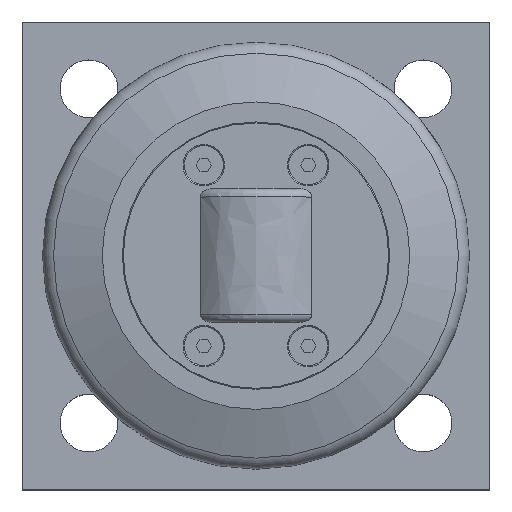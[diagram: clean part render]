
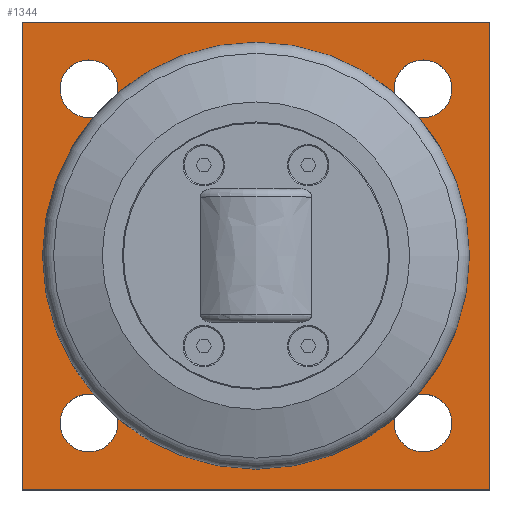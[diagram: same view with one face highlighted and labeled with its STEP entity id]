
A CAD part, top view. The second image highlights one B-rep face of the part: STEP entity #1344.
In plain terms, the highlighted planar face has unit normal (0, 0, 1).
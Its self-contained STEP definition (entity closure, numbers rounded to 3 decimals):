
#60=FACE_BOUND('',#289,.T.);
#61=FACE_BOUND('',#290,.T.);
#62=FACE_BOUND('',#291,.T.);
#63=FACE_BOUND('',#292,.T.);
#64=FACE_BOUND('',#293,.T.);
#127=CIRCLE('',#1493,39.5);
#128=CIRCLE('',#1495,8.647);
#129=CIRCLE('',#1496,8.647);
#130=CIRCLE('',#1497,8.647);
#131=CIRCLE('',#1498,8.647);
#132=CIRCLE('',#1499,8.647);
#133=CIRCLE('',#1500,8.647);
#134=CIRCLE('',#1501,8.647);
#135=CIRCLE('',#1502,8.647);
#203=FACE_OUTER_BOUND('',#288,.T.);
#288=EDGE_LOOP('',(#1178,#1179,#1180,#1181));
#289=EDGE_LOOP('',(#1182));
#290=EDGE_LOOP('',(#1183,#1184));
#291=EDGE_LOOP('',(#1185,#1186));
#292=EDGE_LOOP('',(#1187,#1188));
#293=EDGE_LOOP('',(#1189,#1190));
#404=LINE('',#2342,#517);
#405=LINE('',#2344,#518);
#406=LINE('',#2346,#519);
#407=LINE('',#2347,#520);
#517=VECTOR('',#1857,10.);
#518=VECTOR('',#1858,10.);
#519=VECTOR('',#1859,10.);
#520=VECTOR('',#1860,10.);
#644=VERTEX_POINT('',#2336);
#645=VERTEX_POINT('',#2340);
#646=VERTEX_POINT('',#2341);
#647=VERTEX_POINT('',#2343);
#648=VERTEX_POINT('',#2345);
#649=VERTEX_POINT('',#2348);
#650=VERTEX_POINT('',#2349);
#651=VERTEX_POINT('',#2352);
#652=VERTEX_POINT('',#2353);
#653=VERTEX_POINT('',#2356);
#654=VERTEX_POINT('',#2357);
#655=VERTEX_POINT('',#2360);
#656=VERTEX_POINT('',#2361);
#826=EDGE_CURVE('',#644,#644,#127,.T.);
#827=EDGE_CURVE('',#645,#646,#404,.T.);
#828=EDGE_CURVE('',#647,#645,#405,.T.);
#829=EDGE_CURVE('',#648,#647,#406,.T.);
#830=EDGE_CURVE('',#646,#648,#407,.T.);
#831=EDGE_CURVE('',#649,#650,#128,.T.);
#832=EDGE_CURVE('',#650,#649,#129,.T.);
#833=EDGE_CURVE('',#651,#652,#130,.T.);
#834=EDGE_CURVE('',#652,#651,#131,.T.);
#835=EDGE_CURVE('',#653,#654,#132,.T.);
#836=EDGE_CURVE('',#654,#653,#133,.T.);
#837=EDGE_CURVE('',#655,#656,#134,.T.);
#838=EDGE_CURVE('',#656,#655,#135,.T.);
#1178=ORIENTED_EDGE('',*,*,#827,.F.);
#1179=ORIENTED_EDGE('',*,*,#828,.F.);
#1180=ORIENTED_EDGE('',*,*,#829,.F.);
#1181=ORIENTED_EDGE('',*,*,#830,.F.);
#1182=ORIENTED_EDGE('',*,*,#826,.T.);
#1183=ORIENTED_EDGE('',*,*,#831,.T.);
#1184=ORIENTED_EDGE('',*,*,#832,.T.);
#1185=ORIENTED_EDGE('',*,*,#833,.T.);
#1186=ORIENTED_EDGE('',*,*,#834,.T.);
#1187=ORIENTED_EDGE('',*,*,#835,.T.);
#1188=ORIENTED_EDGE('',*,*,#836,.T.);
#1189=ORIENTED_EDGE('',*,*,#837,.T.);
#1190=ORIENTED_EDGE('',*,*,#838,.T.);
#1275=PLANE('',#1494);
#1344=ADVANCED_FACE('',(#203,#60,#61,#62,#63,#64),#1275,.T.);
#1493=AXIS2_PLACEMENT_3D('',#2338,#1853,#1854);
#1494=AXIS2_PLACEMENT_3D('',#2339,#1855,#1856);
#1495=AXIS2_PLACEMENT_3D('',#2350,#1861,#1862);
#1496=AXIS2_PLACEMENT_3D('',#2351,#1863,#1864);
#1497=AXIS2_PLACEMENT_3D('',#2354,#1865,#1866);
#1498=AXIS2_PLACEMENT_3D('',#2355,#1867,#1868);
#1499=AXIS2_PLACEMENT_3D('',#2358,#1869,#1870);
#1500=AXIS2_PLACEMENT_3D('',#2359,#1871,#1872);
#1501=AXIS2_PLACEMENT_3D('',#2362,#1873,#1874);
#1502=AXIS2_PLACEMENT_3D('',#2363,#1875,#1876);
#1853=DIRECTION('center_axis',(0.,0.,-1.));
#1854=DIRECTION('ref_axis',(0.,-1.,0.));
#1855=DIRECTION('center_axis',(0.,0.,1.));
#1856=DIRECTION('ref_axis',(1.,0.,0.));
#1857=DIRECTION('',(0.,1.,0.));
#1858=DIRECTION('',(-1.,0.,0.));
#1859=DIRECTION('',(0.,-1.,0.));
#1860=DIRECTION('',(1.,0.,0.));
#1861=DIRECTION('center_axis',(0.,0.,-1.));
#1862=DIRECTION('ref_axis',(1.,0.,0.));
#1863=DIRECTION('center_axis',(0.,0.,-1.));
#1864=DIRECTION('ref_axis',(1.,0.,0.));
#1865=DIRECTION('center_axis',(0.,0.,-1.));
#1866=DIRECTION('ref_axis',(1.,0.,0.));
#1867=DIRECTION('center_axis',(0.,0.,-1.));
#1868=DIRECTION('ref_axis',(1.,0.,0.));
#1869=DIRECTION('center_axis',(0.,0.,-1.));
#1870=DIRECTION('ref_axis',(1.,0.,0.));
#1871=DIRECTION('center_axis',(0.,0.,-1.));
#1872=DIRECTION('ref_axis',(1.,0.,0.));
#1873=DIRECTION('center_axis',(0.,0.,-1.));
#1874=DIRECTION('ref_axis',(1.,0.,0.));
#1875=DIRECTION('center_axis',(0.,0.,-1.));
#1876=DIRECTION('ref_axis',(1.,0.,0.));
#2336=CARTESIAN_POINT('',(70.,109.5,20.));
#2338=CARTESIAN_POINT('Origin',(70.,70.,20.));
#2339=CARTESIAN_POINT('Origin',(70.,70.,20.));
#2340=CARTESIAN_POINT('',(0.,0.,20.));
#2341=CARTESIAN_POINT('',(0.,140.,20.));
#2342=CARTESIAN_POINT('',(0.,140.,20.));
#2343=CARTESIAN_POINT('',(140.,0.,20.));
#2344=CARTESIAN_POINT('',(0.,0.,20.));
#2345=CARTESIAN_POINT('',(140.,140.,20.));
#2346=CARTESIAN_POINT('',(140.,0.,20.));
#2347=CARTESIAN_POINT('',(140.,140.,20.));
#2348=CARTESIAN_POINT('',(28.647,120.,20.));
#2349=CARTESIAN_POINT('',(11.353,120.,20.));
#2350=CARTESIAN_POINT('Origin',(20.,120.,20.));
#2351=CARTESIAN_POINT('Origin',(20.,120.,20.));
#2352=CARTESIAN_POINT('',(128.647,120.,20.));
#2353=CARTESIAN_POINT('',(111.353,120.,20.));
#2354=CARTESIAN_POINT('Origin',(120.,120.,20.));
#2355=CARTESIAN_POINT('Origin',(120.,120.,20.));
#2356=CARTESIAN_POINT('',(128.647,20.,20.));
#2357=CARTESIAN_POINT('',(111.353,20.,20.));
#2358=CARTESIAN_POINT('Origin',(120.,20.,20.));
#2359=CARTESIAN_POINT('Origin',(120.,20.,20.));
#2360=CARTESIAN_POINT('',(28.647,20.,20.));
#2361=CARTESIAN_POINT('',(11.353,20.,20.));
#2362=CARTESIAN_POINT('Origin',(20.,20.,20.));
#2363=CARTESIAN_POINT('Origin',(20.,20.,20.));
